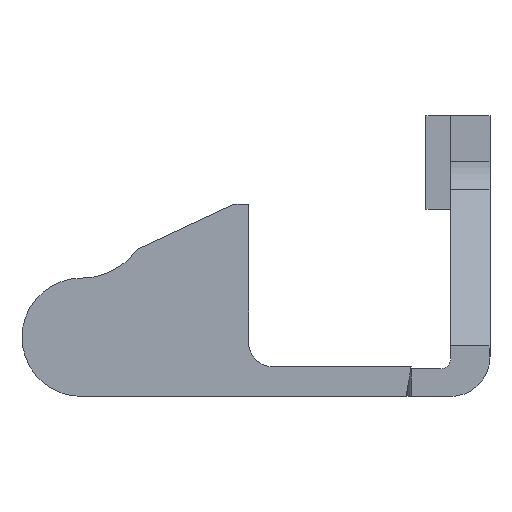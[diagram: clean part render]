
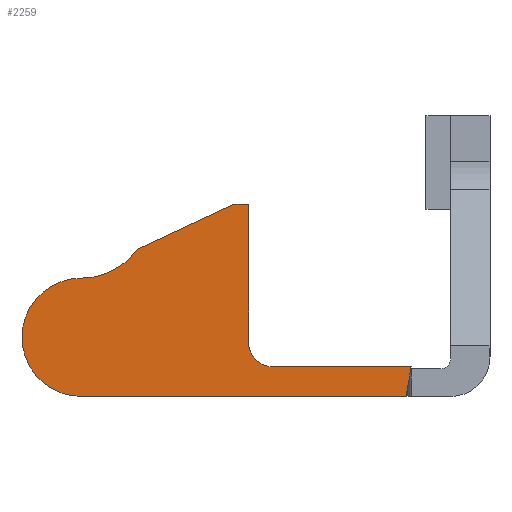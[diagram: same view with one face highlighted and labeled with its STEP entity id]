
A CAD part, left-side view. The second image highlights one B-rep face of the part: STEP entity #2259.
In plain terms, the highlighted planar face has unit normal (-1, 0, 0).
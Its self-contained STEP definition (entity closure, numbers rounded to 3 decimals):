
#935 = ORIENTED_EDGE ( 'NONE', *, *, #8100, .F. ) ;
#936 = ORIENTED_EDGE ( 'NONE', *, *, #8106, .F. ) ;
#937 = ORIENTED_EDGE ( 'NONE', *, *, #8103, .T. ) ;
#938 = ORIENTED_EDGE ( 'NONE', *, *, #8105, .F. ) ;
#939 = ORIENTED_EDGE ( 'NONE', *, *, #8116, .F. ) ;
#940 = ORIENTED_EDGE ( 'NONE', *, *, #8119, .F. ) ;
#941 = ORIENTED_EDGE ( 'NONE', *, *, #8122, .F. ) ;
#942 = ORIENTED_EDGE ( 'NONE', *, *, #8109, .F. ) ;
#943 = ORIENTED_EDGE ( 'NONE', *, *, #8038, .F. ) ;
#944 = ORIENTED_EDGE ( 'NONE', *, *, #8102, .F. ) ;
#1045 = VERTEX_POINT ( 'NONE', #6073 ) ;
#1047 = VERTEX_POINT ( 'NONE', #6075 ) ;
#1051 = VERTEX_POINT ( 'NONE', #6079 ) ;
#1052 = VERTEX_POINT ( 'NONE', #6080 ) ;
#1053 = VERTEX_POINT ( 'NONE', #6081 ) ;
#1059 = VERTEX_POINT ( 'NONE', #6087 ) ;
#1062 = VERTEX_POINT ( 'NONE', #6090 ) ;
#1063 = VERTEX_POINT ( 'NONE', #6091 ) ;
#1066 = VERTEX_POINT ( 'NONE', #6094 ) ;
#1071 = VERTEX_POINT ( 'NONE', #6099 ) ;
#2190 = EDGE_LOOP ( 'NONE', ( #935, #936, #937, #938, #939, #940, #941, #942, #943, #944 ) ) ;
#2259 = ADVANCED_FACE ( 'NONE', ( #3393 ), #3395, .F. ) ;
#3386 = CARTESIAN_POINT ( 'NONE',  ( -8.75, 3., -17. ) ) ;
#3393 = FACE_OUTER_BOUND ( 'NONE', #2190, .T. ) ;
#3395 = PLANE ( 'NONE',  #4876 ) ;
#3400 = DIRECTION ( 'NONE',  ( 1., 0., 0. ) ) ;
#3402 = DIRECTION ( 'NONE',  ( 0., 0., -1. ) ) ;
#4876 = AXIS2_PLACEMENT_3D ( 'NONE', #3386, #3400, #3402 ) ;
#4959 = CIRCLE ( 'NONE', #4962, 6. ) ;
#4962 = AXIS2_PLACEMENT_3D ( 'NONE', #5558, #5559, #5560 ) ;
#5271 = VECTOR ( 'NONE', #5762, 1000. ) ;
#5282 = AXIS2_PLACEMENT_3D ( 'NONE', #5753, #5754, #5755 ) ;
#5284 = VECTOR ( 'NONE', #5764, 1000. ) ;
#5286 = AXIS2_PLACEMENT_3D ( 'NONE', #5813, #5814, #5815 ) ;
#5287 = CIRCLE ( 'NONE', #5282, 2.5 ) ;
#5293 = VECTOR ( 'NONE', #5746, 1000. ) ;
#5307 = VECTOR ( 'NONE', #5751, 1000. ) ;
#5309 = VECTOR ( 'NONE', #5804, 1000. ) ;
#5316 = CIRCLE ( 'NONE', #5286, 7. ) ;
#5355 = AXIS2_PLACEMENT_3D ( 'NONE', #5771, #5772, #5773 ) ;
#5358 = VECTOR ( 'NONE', #5795, 1000. ) ;
#5361 = CIRCLE ( 'NONE', #5355, 6. ) ;
#5558 = CARTESIAN_POINT ( 'NONE',  ( -8.75, 3., -17. ) ) ;
#5559 = DIRECTION ( 'NONE',  ( 1., 0., 0. ) ) ;
#5560 = DIRECTION ( 'NONE',  ( 0., 0., -1. ) ) ;
#5740 = LINE ( 'NONE', #5750, #5307 ) ;
#5744 = LINE ( 'NONE', #5745, #5293 ) ;
#5745 = CARTESIAN_POINT ( 'NONE',  ( -8.75, 0., 16.5 ) ) ;
#5746 = DIRECTION ( 'NONE',  ( 0., -0.985, -0.174 ) ) ;
#5750 = CARTESIAN_POINT ( 'NONE',  ( -8.75, -3., -17. ) ) ;
#5751 = DIRECTION ( 'NONE',  ( 0., 0., -1. ) ) ;
#5753 = CARTESIAN_POINT ( 'NONE',  ( -8.75, 2.5, 2.5 ) ) ;
#5754 = DIRECTION ( 'NONE',  ( 1., 0., 0. ) ) ;
#5755 = DIRECTION ( 'NONE',  ( 0., 0., -1. ) ) ;
#5756 = LINE ( 'NONE', #5763, #5284 ) ;
#5760 = LINE ( 'NONE', #5761, #5271 ) ;
#5761 = CARTESIAN_POINT ( 'NONE',  ( -8.75, 0., 0. ) ) ;
#5762 = DIRECTION ( 'NONE',  ( 0., -1., 0. ) ) ;
#5763 = CARTESIAN_POINT ( 'NONE',  ( -8.75, 0., 16.5 ) ) ;
#5764 = DIRECTION ( 'NONE',  ( 0., 0., 1. ) ) ;
#5771 = CARTESIAN_POINT ( 'NONE',  ( -8.75, 3., -17. ) ) ;
#5772 = DIRECTION ( 'NONE',  ( 1., 0., 0. ) ) ;
#5773 = DIRECTION ( 'NONE',  ( 0., 0., -1. ) ) ;
#5779 = LINE ( 'NONE', #5794, #5358 ) ;
#5791 = CARTESIAN_POINT ( 'NONE',  ( -8.75, 16.5, -1.5 ) ) ;
#5794 = CARTESIAN_POINT ( 'NONE',  ( -8.75, 16.5, 0. ) ) ;
#5795 = DIRECTION ( 'NONE',  ( 0., 0., 1. ) ) ;
#5797 = LINE ( 'NONE', #5791, #5309 ) ;
#5804 = DIRECTION ( 'NONE',  ( 0., 0.423, 0.906 ) ) ;
#5813 = CARTESIAN_POINT ( 'NONE',  ( -8.75, 16., -17. ) ) ;
#5814 = DIRECTION ( 'NONE',  ( -1., 0., 0. ) ) ;
#5815 = DIRECTION ( 'NONE',  ( 0., 0., 1. ) ) ;
#6073 = CARTESIAN_POINT ( 'NONE',  ( -8.75, -3., -17. ) ) ;
#6075 = CARTESIAN_POINT ( 'NONE',  ( -8.75, 3., -23. ) ) ;
#6079 = CARTESIAN_POINT ( 'NONE',  ( -8.75, 2.5, 0. ) ) ;
#6080 = CARTESIAN_POINT ( 'NONE',  ( -8.75, 0., 2.5 ) ) ;
#6081 = CARTESIAN_POINT ( 'NONE',  ( -8.75, 16.5, 0. ) ) ;
#6087 = CARTESIAN_POINT ( 'NONE',  ( -8.75, 9., -17. ) ) ;
#6090 = CARTESIAN_POINT ( 'NONE',  ( -8.75, 11.927, -11.307 ) ) ;
#6091 = CARTESIAN_POINT ( 'NONE',  ( -8.75, 16.5, -1.5 ) ) ;
#6094 = CARTESIAN_POINT ( 'NONE',  ( -8.75, 0., 16.5 ) ) ;
#6099 = CARTESIAN_POINT ( 'NONE',  ( -8.75, -3., 15.971 ) ) ;
#8038 = EDGE_CURVE ( 'NONE', #1045, #1047, #4959, .T. ) ;
#8100 = EDGE_CURVE ( 'NONE', #1066, #1071, #5744, .T. ) ;
#8102 = EDGE_CURVE ( 'NONE', #1071, #1045, #5740, .T. ) ;
#8103 = EDGE_CURVE ( 'NONE', #1052, #1051, #5287, .T. ) ;
#8105 = EDGE_CURVE ( 'NONE', #1053, #1051, #5760, .T. ) ;
#8106 = EDGE_CURVE ( 'NONE', #1052, #1066, #5756, .T. ) ;
#8109 = EDGE_CURVE ( 'NONE', #1047, #1059, #5361, .T. ) ;
#8116 = EDGE_CURVE ( 'NONE', #1063, #1053, #5779, .T. ) ;
#8119 = EDGE_CURVE ( 'NONE', #1062, #1063, #5797, .T. ) ;
#8122 = EDGE_CURVE ( 'NONE', #1059, #1062, #5316, .T. ) ;
